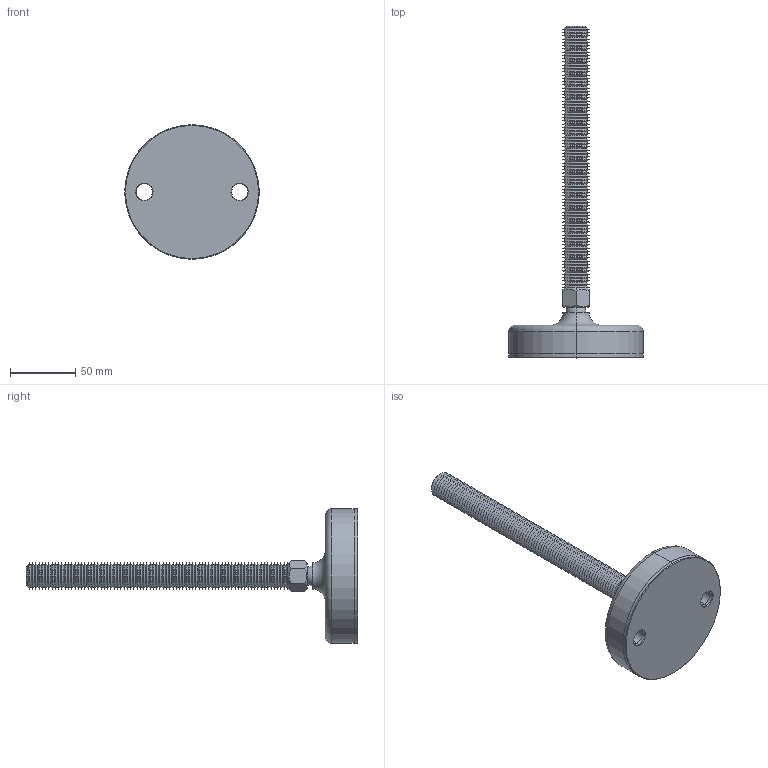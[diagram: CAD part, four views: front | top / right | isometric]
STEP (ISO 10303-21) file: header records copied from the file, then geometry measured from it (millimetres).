
FILE_DESCRIPTION (( 'STEP AP203' ), '1' );
FILE_NAME ('34724.W2012.step', '2019-11-28T22:18:53', ( '' ), ( '' ), 'SwSTEP 2.0', 'SolidWorks 2017', '' );
FILE_SCHEMA (( 'CONFIG_CONTROL_DESIGN' ));
Length unit declared in the file: millimetre
Products named in the file (4): 34724.W2012; Part2_34724.W2012; Part1_34724.W2012; Part3_34724.W2012
Assembly tree (3 placements, depth 2):
  34724.W2012
    Part1_34724.W2012
    Part2_34724.W2012
    Part3_34724.W2012
Bounding box: 103 x 254 x 103 mm (x, y, z)
Volume: 261095.7 mm3; surface area: 66535.1 mm2
Topology: 3 solids, 3 shells, 372 faces, 759 edges, 393 vertices
Faces by surface type: cone 338, plane 14, cylinder 12, sphere 4, torus 4
Entity records: 9966 total; most frequent: DIRECTION 1876, CARTESIAN_POINT 1668, ORIENTED_EDGE 1500, AXIS2_PLACEMENT_3D 760, EDGE_CURVE 750, VERTEX_POINT 388, EDGE_LOOP 384, CIRCLE 382
